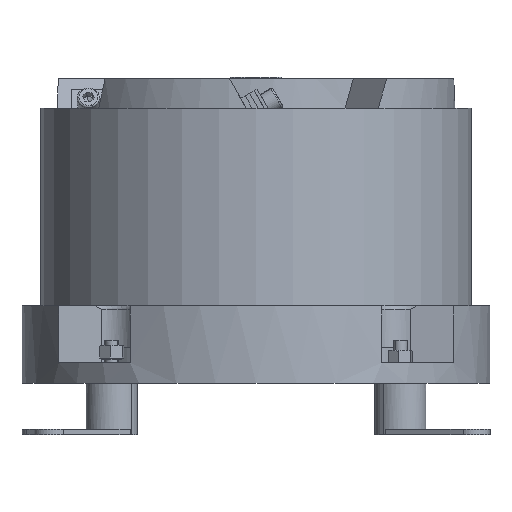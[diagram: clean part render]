
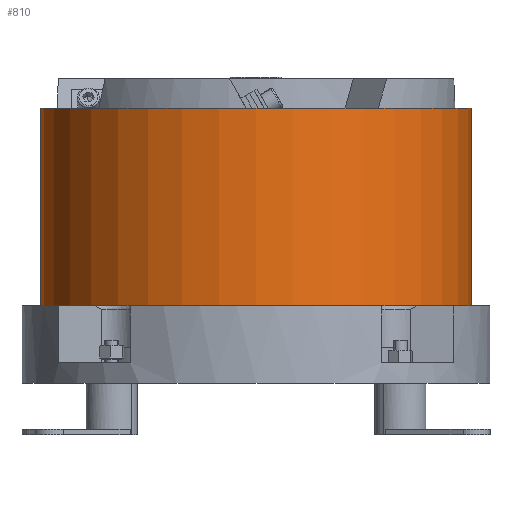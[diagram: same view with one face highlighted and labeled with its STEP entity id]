
A CAD part, front view. The second image highlights one B-rep face of the part: STEP entity #810.
In plain terms, the highlighted cylindrical face has radius 125 mm (diameter 250 mm), a partial arc.
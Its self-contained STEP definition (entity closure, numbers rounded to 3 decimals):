
#236 = DIRECTION ( 'NONE',  ( 0., 0., -1. ) ) ;
#452 = CARTESIAN_POINT ( 'NONE',  ( -110.213, 25.613, 372.62 ) ) ;
#613 = DIRECTION ( 'NONE',  ( 0.128, 0.992, 0. ) ) ;
#805 = CIRCLE ( 'NONE', #3534, 125. ) ;
#810 = ADVANCED_FACE ( 'NONE', ( #12259 ), #3016, .T. ) ;
#1477 = AXIS2_PLACEMENT_3D ( 'NONE', #8467, #1953, #1895 ) ;
#1895 = DIRECTION ( 'NONE',  ( -1., 0., 0. ) ) ;
#1953 = DIRECTION ( 'NONE',  ( 0., 0., -1. ) ) ;
#2156 = VERTEX_POINT ( 'NONE', #13027 ) ;
#2275 = CARTESIAN_POINT ( 'NONE',  ( -235.213, 25.613, 257.62 ) ) ;
#2587 = EDGE_CURVE ( 'NONE', #8412, #7799, #15222, .T. ) ;
#3016 = CYLINDRICAL_SURFACE ( 'NONE', #1477, 125. ) ;
#3366 = EDGE_CURVE ( 'NONE', #7799, #11519, #5329, .T. ) ;
#3534 = AXIS2_PLACEMENT_3D ( 'NONE', #452, #9499, #613 ) ;
#4650 = EDGE_CURVE ( 'NONE', #8412, #2156, #805, .T. ) ;
#5329 = CIRCLE ( 'NONE', #16466, 125. ) ;
#5864 = CARTESIAN_POINT ( 'NONE',  ( -110.213, 25.613, 257.62 ) ) ;
#6214 = CARTESIAN_POINT ( 'NONE',  ( -235.213, 25.613, 372.62 ) ) ;
#6655 = CARTESIAN_POINT ( 'NONE',  ( 14.787, 25.613, 257.62 ) ) ;
#6894 = CARTESIAN_POINT ( 'NONE',  ( -235.213, 25.613, 372.62 ) ) ;
#6983 = EDGE_LOOP ( 'NONE', ( #10491, #14669, #9026, #8541 ) ) ;
#7573 = VECTOR ( 'NONE', #16110, 1000. ) ;
#7799 = VERTEX_POINT ( 'NONE', #2275 ) ;
#8412 = VERTEX_POINT ( 'NONE', #6214 ) ;
#8467 = CARTESIAN_POINT ( 'NONE',  ( -110.213, 25.613, 372.62 ) ) ;
#8541 = ORIENTED_EDGE ( 'NONE', *, *, #3366, .T. ) ;
#9026 = ORIENTED_EDGE ( 'NONE', *, *, #2587, .T. ) ;
#9499 = DIRECTION ( 'NONE',  ( 0., 0., 1. ) ) ;
#9711 = DIRECTION ( 'NONE',  ( 0.128, 0.992, 0. ) ) ;
#10163 = LINE ( 'NONE', #14939, #7573 ) ;
#10491 = ORIENTED_EDGE ( 'NONE', *, *, #11787, .F. ) ;
#11519 = VERTEX_POINT ( 'NONE', #6655 ) ;
#11787 = EDGE_CURVE ( 'NONE', #2156, #11519, #10163, .T. ) ;
#11792 = VECTOR ( 'NONE', #236, 1000. ) ;
#12259 = FACE_OUTER_BOUND ( 'NONE', #6983, .T. ) ;
#12326 = DIRECTION ( 'NONE',  ( 0., 0., 1. ) ) ;
#13027 = CARTESIAN_POINT ( 'NONE',  ( 14.787, 25.613, 372.62 ) ) ;
#14669 = ORIENTED_EDGE ( 'NONE', *, *, #4650, .F. ) ;
#14939 = CARTESIAN_POINT ( 'NONE',  ( 14.787, 25.613, 372.62 ) ) ;
#15222 = LINE ( 'NONE', #6894, #11792 ) ;
#16110 = DIRECTION ( 'NONE',  ( 0., 0., -1. ) ) ;
#16466 = AXIS2_PLACEMENT_3D ( 'NONE', #5864, #12326, #9711 ) ;
